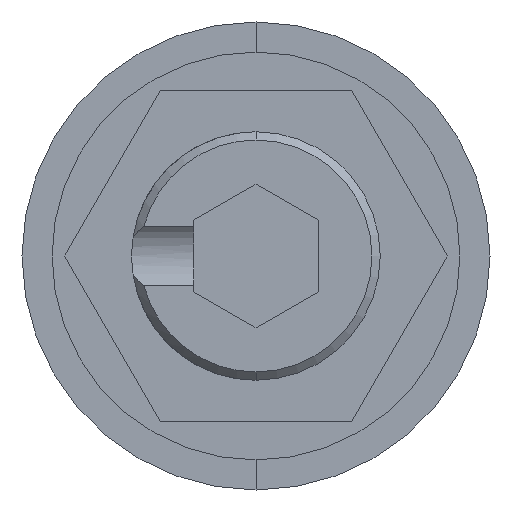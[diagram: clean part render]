
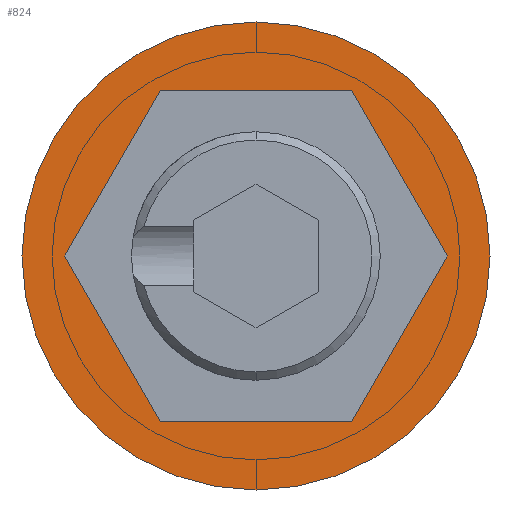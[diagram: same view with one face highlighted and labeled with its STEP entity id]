
A CAD part, front view. The second image highlights one B-rep face of the part: STEP entity #824.
In plain terms, the highlighted planar face has unit normal (0, -1, 0).
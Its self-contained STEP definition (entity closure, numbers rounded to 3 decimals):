
#11 = VERTEX_POINT ( 'NONE', #378 ) ;
#28 = VECTOR ( 'NONE', #2010, 1000. ) ;
#54 = EDGE_LOOP ( 'NONE', ( #1930, #1974 ) ) ;
#68 = VERTEX_POINT ( 'NONE', #577 ) ;
#206 = VECTOR ( 'NONE', #1107, 1000. ) ;
#265 = FACE_OUTER_BOUND ( 'NONE', #54, .T. ) ;
#297 = CARTESIAN_POINT ( 'NONE',  ( 0., 0., 0. ) ) ;
#322 = ORIENTED_EDGE ( 'NONE', *, *, #961, .F. ) ;
#378 = CARTESIAN_POINT ( 'NONE',  ( 2.309, 0., -4. ) ) ;
#418 = PLANE ( 'NONE',  #1452 ) ;
#426 = EDGE_CURVE ( 'NONE', #68, #1695, #1992, .T. ) ;
#456 = DIRECTION ( 'NONE',  ( 0., -1., 0. ) ) ;
#474 = DIRECTION ( 'NONE',  ( 0., 0., -1. ) ) ;
#482 = DIRECTION ( 'NONE',  ( 1., 0., 0. ) ) ;
#492 = CARTESIAN_POINT ( 'NONE',  ( -2.309, 0., -4. ) ) ;
#517 = LINE ( 'NONE', #1991, #28 ) ;
#577 = CARTESIAN_POINT ( 'NONE',  ( 4.619, 0., 0. ) ) ;
#652 = ORIENTED_EDGE ( 'NONE', *, *, #1843, .F. ) ;
#673 = AXIS2_PLACEMENT_3D ( 'NONE', #1019, #1027, #1171 ) ;
#674 = LINE ( 'NONE', #1726, #1903 ) ;
#688 = FACE_BOUND ( 'NONE', #1829, .T. ) ;
#702 = VERTEX_POINT ( 'NONE', #1918 ) ;
#725 = DIRECTION ( 'NONE',  ( 0., 0., -1. ) ) ;
#741 = DIRECTION ( 'NONE',  ( -0.5, 0., -0.866 ) ) ;
#824 = ADVANCED_FACE ( 'NONE', ( #688, #265 ), #418, .T. ) ;
#829 = EDGE_CURVE ( 'NONE', #932, #11, #1088, .T. ) ;
#852 = DIRECTION ( 'NONE',  ( -0.5, 0., 0.866 ) ) ;
#866 = AXIS2_PLACEMENT_3D ( 'NONE', #1044, #885, #725 ) ;
#885 = DIRECTION ( 'NONE',  ( 0., -1., 0. ) ) ;
#906 = CARTESIAN_POINT ( 'NONE',  ( -4.619, 0., 0. ) ) ;
#932 = VERTEX_POINT ( 'NONE', #1068 ) ;
#961 = EDGE_CURVE ( 'NONE', #11, #68, #1424, .T. ) ;
#967 = LINE ( 'NONE', #1250, #206 ) ;
#968 = CARTESIAN_POINT ( 'NONE',  ( 4.619, 0., 0. ) ) ;
#1019 = CARTESIAN_POINT ( 'NONE',  ( 0., 0., 0. ) ) ;
#1027 = DIRECTION ( 'NONE',  ( 0., -1., 0. ) ) ;
#1040 = CIRCLE ( 'NONE', #866, 5.65 ) ;
#1044 = CARTESIAN_POINT ( 'NONE',  ( 0., 0., 0. ) ) ;
#1061 = ORIENTED_EDGE ( 'NONE', *, *, #829, .F. ) ;
#1068 = CARTESIAN_POINT ( 'NONE',  ( -2.309, 0., -4. ) ) ;
#1088 = LINE ( 'NONE', #492, #1527 ) ;
#1093 = VERTEX_POINT ( 'NONE', #1818 ) ;
#1107 = DIRECTION ( 'NONE',  ( -1., 0., 0. ) ) ;
#1163 = EDGE_CURVE ( 'NONE', #2042, #932, #517, .T. ) ;
#1171 = DIRECTION ( 'NONE',  ( 0., 0., -1. ) ) ;
#1250 = CARTESIAN_POINT ( 'NONE',  ( 2.309, 0., 4. ) ) ;
#1327 = VECTOR ( 'NONE', #1646, 1000. ) ;
#1424 = LINE ( 'NONE', #1632, #1327 ) ;
#1431 = EDGE_CURVE ( 'NONE', #1093, #1859, #2068, .T. ) ;
#1452 = AXIS2_PLACEMENT_3D ( 'NONE', #297, #456, #474 ) ;
#1459 = CARTESIAN_POINT ( 'NONE',  ( 2.309, 0., 4. ) ) ;
#1527 = VECTOR ( 'NONE', #482, 1000. ) ;
#1632 = CARTESIAN_POINT ( 'NONE',  ( 2.309, 0., -4. ) ) ;
#1646 = DIRECTION ( 'NONE',  ( 0.5, 0., 0.866 ) ) ;
#1659 = ORIENTED_EDGE ( 'NONE', *, *, #1817, .F. ) ;
#1695 = VERTEX_POINT ( 'NONE', #1459 ) ;
#1726 = CARTESIAN_POINT ( 'NONE',  ( -2.309, 0., 4. ) ) ;
#1758 = ORIENTED_EDGE ( 'NONE', *, *, #426, .F. ) ;
#1773 = ORIENTED_EDGE ( 'NONE', *, *, #1163, .F. ) ;
#1817 = EDGE_CURVE ( 'NONE', #702, #2042, #674, .T. ) ;
#1818 = CARTESIAN_POINT ( 'NONE',  ( 0., 0., -5.65 ) ) ;
#1829 = EDGE_LOOP ( 'NONE', ( #1061, #1773, #1659, #652, #1758, #322 ) ) ;
#1843 = EDGE_CURVE ( 'NONE', #1695, #702, #967, .T. ) ;
#1859 = VERTEX_POINT ( 'NONE', #1909 ) ;
#1903 = VECTOR ( 'NONE', #741, 1000. ) ;
#1909 = CARTESIAN_POINT ( 'NONE',  ( 0., 0., 5.65 ) ) ;
#1918 = CARTESIAN_POINT ( 'NONE',  ( -2.309, 0., 4. ) ) ;
#1930 = ORIENTED_EDGE ( 'NONE', *, *, #1431, .T. ) ;
#1941 = VECTOR ( 'NONE', #852, 1000. ) ;
#1974 = ORIENTED_EDGE ( 'NONE', *, *, #2095, .T. ) ;
#1991 = CARTESIAN_POINT ( 'NONE',  ( -4.619, 0., 0. ) ) ;
#1992 = LINE ( 'NONE', #968, #1941 ) ;
#2010 = DIRECTION ( 'NONE',  ( 0.5, 0., -0.866 ) ) ;
#2042 = VERTEX_POINT ( 'NONE', #906 ) ;
#2068 = CIRCLE ( 'NONE', #673, 5.65 ) ;
#2095 = EDGE_CURVE ( 'NONE', #1859, #1093, #1040, .T. ) ;
